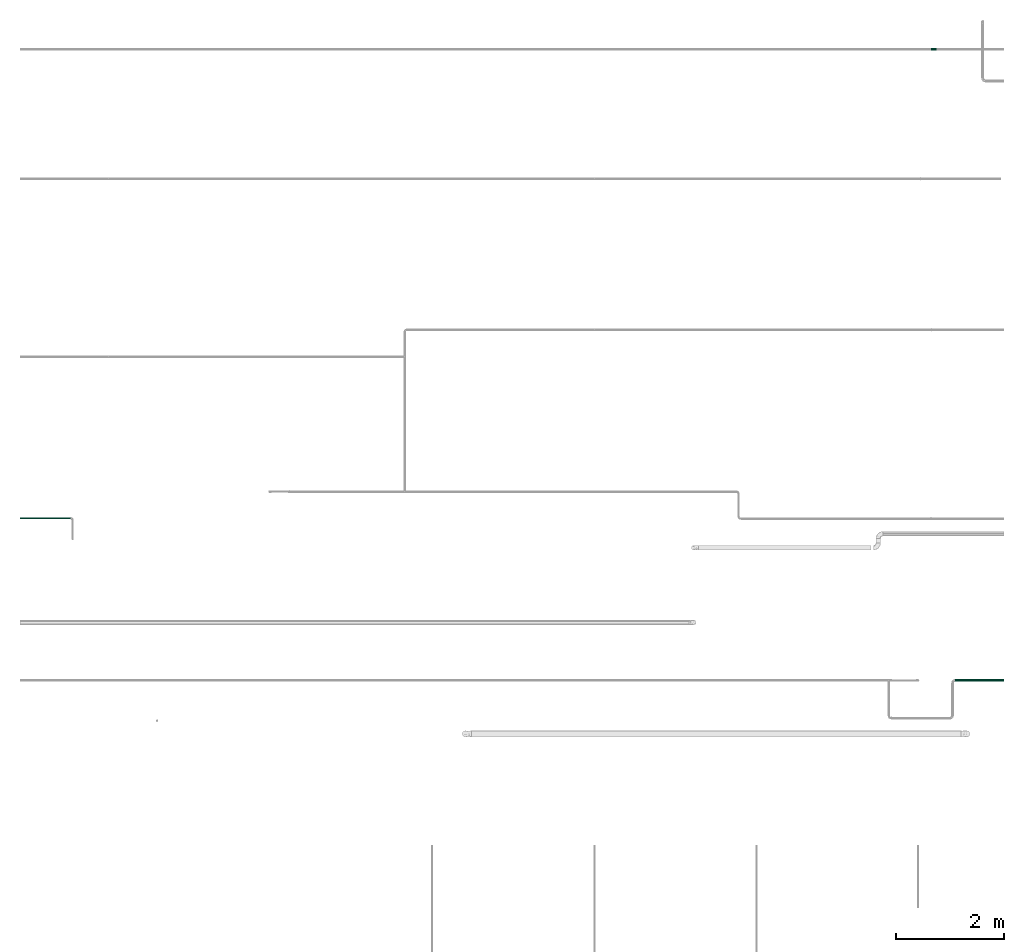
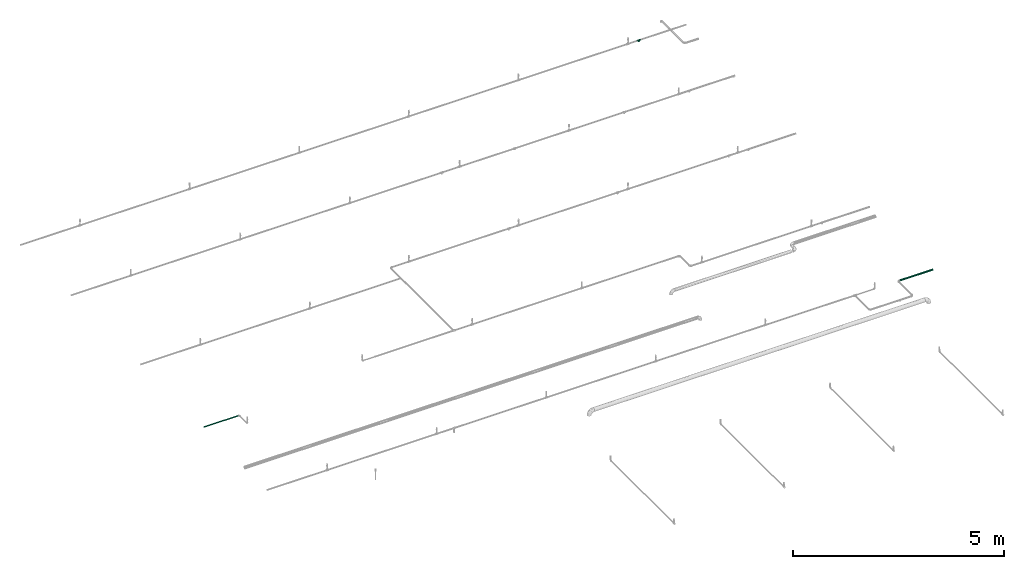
# One storey, part 93 of 94: 2 flow segments, 1 flow fitting.
"""IFC2X3 building model written with IfcOpenShell, lengths in millimetres."""

from ifc_helpers import new_model, entity, si_unit, converted_unit, derived_unit, direction, frame, origin_with_axes, place, context, subcontext, project, spatial, open_shell, faceted_brep, surface_model, source, transform, mapped, type_object, element, save


model = new_model("IFC2X3")

# Units and contexts
model_context = context("Model", 3, precision=0.01, world=frame((0.0, 4.29681676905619e-09, 0.0)), true_north=direction((4.01073788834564e-13, 1.0)))
plan_context = context("Plan", 3, precision=0.01, world=frame((0.0, 4.29681676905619e-09, 0.0)), true_north=direction((4.01073788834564e-13, 1.0)))
body_context = subcontext(model_context, "Body", "Model", "MODEL_VIEW")
ifc_project = project(units=[converted_unit("PLANEANGLEUNIT", "DEGREE", entity("IfcPositiveLengthMeasure", 0.0174532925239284), si_unit("PLANEANGLEUNIT", "RADIAN"), dimensions=[0, 0, 0, 0, 0, 0, 0]), si_unit("AREAUNIT", "SQUARE_METRE"), si_unit("LENGTHUNIT", "METRE", prefix="MILLI"), si_unit("MASSUNIT", "GRAM", prefix="KILO"), si_unit("POWERUNIT", "WATT"), si_unit("PRESSUREUNIT", "PASCAL"), si_unit("FORCEUNIT", "NEWTON", prefix="KILO"), si_unit("ELECTRICCURRENTUNIT", "AMPERE"), si_unit("THERMODYNAMICTEMPERATUREUNIT", "DEGREE_CELSIUS"), si_unit("TIMEUNIT", "SECOND"), si_unit("VOLUMEUNIT", "CUBIC_METRE"), derived_unit("LINEARVELOCITYUNIT", [(si_unit("LENGTHUNIT", "METRE"), 1), (si_unit("TIMEUNIT", "SECOND"), -1)]), derived_unit("VOLUMETRICFLOWRATEUNIT", [(si_unit("VOLUMEUNIT", "CUBIC_METRE"), 1), (si_unit("TIMEUNIT", "SECOND"), -1)]), derived_unit("THERMALTRANSMITTANCEUNIT", [(si_unit("POWERUNIT", "WATT"), 1), (si_unit("THERMODYNAMICTEMPERATUREUNIT", "KELVIN"), -1), (si_unit("AREAUNIT", "SQUARE_METRE"), -1)])], contexts=[model_context, plan_context])

# Site, building, storey
site_placement = place(None, frame((0.0, -4.29681676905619e-09, 0.0), z_axis=(0.0, 0.0, 1.0), x_axis=(1.0, 0.0, 0.0)))
site = spatial("IfcSite", under=ifc_project, at=site_placement, CompositionType="ELEMENT")
building_placement = place(site_placement, frame((0.0, 4.29681676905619e-09, 0.0), z_axis=(0.0, 0.0, 1.0), x_axis=(1.0, 0.0, 0.0)))
building = spatial("IfcBuilding", under=site, at=building_placement, Name="mc-building", CompositionType="ELEMENT")
storey_placement = place(building_placement, frame((0.0, 0.0, 200300.0), z_axis=(0.0, 0.0, 1.0), x_axis=(1.0, 0.0, 0.0)))
storey = spatial("IfcBuildingStorey", under=building, at=storey_placement, Name="Nivå C", CompositionType="ELEMENT", Elevation=200300.0)

# Flow fitting
pipe_fitting_type = type_object("IfcPipeFittingType", Name="magi_pipe_fe_tee_centric_90_NOR", PredefinedType="JUNCTION")
shared_shape = source(origin_with_axes(), body_context, "Body", "SurfaceModel", [
    surface_model("IfcShellBasedSurfaceModel", [(-48.4, 0.0, -21.2), (-48.4, -5.48696, -20.47763), (-48.4, 5.48696, -20.47763), (-48.4, 10.6, -18.35974), (-48.4, 14.99066, -14.99066), (-48.4, -20.47763, 5.48696), (-48.4, 18.35974, -10.6), (-48.4, 10.6, 18.35974), (-48.4, -14.99066, -14.99066), (-48.4, -18.35974, -10.6), (-48.4, -10.6, -18.35974), (-48.4, -20.47763, -5.48696), (-48.4, -21.2, 0.0), (-48.4, 18.35974, 10.6), (-48.4, 20.47763, -5.48696), (-48.4, 20.47763, 5.48696), (-48.4, 21.2, 0.0), (-48.4, 14.99066, 14.99066), (-48.4, 5.48696, 20.47763), (-48.4, 0.0, 21.2), (-48.4, -18.35974, 10.6), (-48.4, -14.99066, 14.99066), (-48.4, -10.6, 18.35974), (-48.4, -5.48696, 20.47763), (48.4, 5.48696, -20.47763), (48.4, -5.48696, -20.47763), (48.4, 0.0, -21.2), (48.4, 14.99066, -14.99066), (48.4, 10.6, -18.35974), (48.4, 18.35974, -10.6), (48.4, 20.47763, -5.48696), (48.4, -21.2, 0.0), (48.4, -10.6, -18.35974), (48.4, -18.35974, -10.6), (48.4, -14.99066, -14.99066), (48.4, -20.47763, -5.48696), (48.4, -20.47763, 5.48696), (48.4, 21.2, 0.0), (48.4, 20.47763, 5.48696), (48.4, 18.35974, 10.6), (48.4, 10.6, 18.35974), (48.4, 14.99066, 14.99066), (48.4, 0.0, 21.2), (48.4, 5.48696, 20.47763), (48.4, -14.99066, 14.99066), (48.4, -18.35974, 10.6), (48.4, -10.6, 18.35974), (48.4, -5.48696, 20.47763), (23.66346, -20.58541, 5.06763), (24.2, -21.2, 0.0), (48.4, -19.41868, 8.04348), (22.92319, -19.72512, 7.37009), (22.18292, -18.86483, 9.67255), (48.4, -12.79533, 16.6752), (17.52885, -13.07902, 16.6847), (20.04053, -16.2918, 13.56529), (48.4, -16.6752, 12.79533), (-22.18292, -18.86483, 9.67255), (-48.4, -19.41868, 8.04348), (-22.92319, -19.72512, 7.37009), (-23.66346, -20.58541, 5.06763), (-24.2, -21.2, 0.0), (-17.52885, -13.07902, 16.6847), (-14.93713, -9.32298, 19.04001), (-20.04053, -16.2918, 13.56529), (-48.4, -16.6752, 12.79533), (-48.4, -12.79533, 16.6752), (14.93713, -9.32298, 19.04001), (12.68846, -4.97966, 20.60687), (11.67048, 0.0, 21.2), (-11.67048, 0.0, 21.2), (-12.68846, -4.97966, 20.60687), (12.68846, -4.97966, -20.60687), (11.67048, 0.0, -21.2), (-20.04053, -16.2918, -13.56529), (-48.4, -16.6752, -12.79533), (17.52885, -13.07902, -16.6847), (48.4, -12.79533, -16.6752), (-11.67048, 0.0, -21.2), (-12.68846, -4.97966, -20.60687), (-22.92319, -19.72512, -7.37009), (-23.66346, -20.58541, -5.06763), (-17.52885, -13.07902, -16.6847), (-48.4, -12.79533, -16.6752), (-14.93713, -9.32298, -19.04001), (14.93713, -9.32298, -19.04001), (48.4, -16.6752, -12.79533), (20.04053, -16.2918, -13.56529), (22.92319, -19.72512, -7.37009), (48.4, -19.41868, -8.04348), (22.18292, -18.86483, -9.67255), (23.66346, -20.58541, -5.06763), (-48.4, -19.41868, -8.04348), (-22.18292, -18.86483, -9.67255), (0.0, -31.8, -24.2), (6.26342, -31.8, -23.37541), (12.1, -31.8, -20.95781), (12.1, -31.8, 20.95781), (17.11198, -31.8, -17.11198), (20.95781, -31.8, -12.1), (23.37541, -31.8, -6.26342), (-12.1, -31.8, -20.95781), (-20.95781, -31.8, -12.1), (-17.11198, -31.8, -17.11198), (-6.26342, -31.8, -23.37541), (-23.37541, -31.8, -6.26342), (-24.2, -31.8, 0.0), (24.2, -31.8, 0.0), (23.37541, -31.8, 6.26342), (20.95781, -31.8, 12.1), (-23.37541, -31.8, 6.26342), (17.11198, -31.8, 17.11198), (6.26342, -31.8, 23.37541), (-17.11198, -31.8, 17.11198), (-20.95781, -31.8, 12.1), (-12.1, -31.8, 20.95781), (0.0, -31.8, 24.2), (-6.26342, -31.8, 23.37541), (-6.02584, 0.0, 23.43777), (-5e-05, 0.0, 24.2), (6.02572, 0.0, 23.4378), (6.02572, 0.0, -23.4378), (-5e-05, 0.0, -24.2), (-6.02584, 0.0, -23.43777)], [open_shell([[[0, 1, 2]], [[3, 2, 4]], [[5, 2, 1]], [[4, 2, 6]], [[6, 2, 7]], [[8, 9, 10]], [[1, 10, 9]], [[9, 11, 1]], [[12, 1, 11]], [[5, 1, 12]], [[13, 14, 6]], [[13, 15, 16]], [[6, 7, 13]], [[5, 7, 2]], [[17, 13, 7]], [[18, 7, 19]], [[20, 21, 5]], [[22, 5, 21]], [[23, 19, 22]], [[7, 5, 22]], [[22, 19, 7]], [[16, 14, 13]], [[24, 25, 26]], [[27, 24, 28]], [[29, 30, 24]], [[29, 24, 27]], [[31, 24, 30]], [[32, 33, 34]], [[33, 32, 25]], [[33, 31, 35]], [[31, 33, 25]], [[25, 24, 31]], [[30, 36, 31]], [[37, 38, 39]], [[37, 39, 40]], [[37, 40, 36]], [[40, 39, 41]], [[42, 40, 43]], [[36, 44, 45]], [[44, 36, 46]], [[46, 42, 47]], [[46, 36, 40]], [[40, 42, 46]], [[37, 36, 30]], [[31, 36, 48]], [[48, 49, 31]], [[36, 50, 51]], [[50, 45, 52]], [[53, 46, 54]], [[44, 55, 56]], [[55, 44, 54]], [[45, 55, 52]], [[55, 45, 56]], [[50, 52, 51]], [[57, 58, 59]], [[60, 12, 61]], [[12, 60, 5]], [[5, 60, 59]], [[5, 59, 58]], [[62, 63, 22]], [[64, 62, 21]], [[64, 65, 20]], [[21, 62, 66]], [[63, 23, 22]], [[64, 20, 57]], [[54, 44, 53]], [[54, 46, 67]], [[68, 42, 69]], [[67, 47, 68]], [[47, 67, 46]], [[68, 47, 42]], [[57, 20, 58]], [[69, 42, 43]], [[39, 38, 15]], [[17, 40, 41]], [[13, 41, 39]], [[43, 40, 7]], [[16, 38, 37]], [[19, 70, 18]], [[64, 21, 65]], [[23, 71, 19]], [[23, 63, 71]], [[19, 71, 70]], [[70, 69, 18]], [[62, 22, 66]], [[43, 18, 69]], [[7, 18, 43]], [[7, 40, 17]], [[13, 17, 41]], [[15, 13, 39]], [[38, 16, 15]], [[36, 51, 48]], [[27, 4, 29]], [[30, 14, 37]], [[30, 29, 6]], [[3, 27, 28]], [[26, 25, 72]], [[26, 73, 24]], [[73, 26, 72]], [[74, 9, 75]], [[28, 24, 2]], [[76, 32, 77]], [[73, 78, 24]], [[14, 30, 6]], [[29, 4, 6]], [[4, 27, 3]], [[37, 14, 16]], [[0, 78, 79]], [[11, 80, 81]], [[82, 8, 83]], [[1, 79, 84]], [[78, 0, 2]], [[0, 79, 1]], [[84, 10, 1]], [[2, 3, 28]], [[78, 2, 24]], [[72, 25, 85]], [[86, 33, 87]], [[34, 76, 77]], [[76, 34, 87]], [[35, 88, 89]], [[32, 76, 85]], [[33, 90, 87]], [[35, 31, 91]], [[90, 89, 88]], [[49, 91, 31]], [[88, 35, 91]], [[82, 10, 84]], [[90, 33, 89]], [[82, 83, 10]], [[8, 82, 74]], [[8, 74, 75]], [[92, 93, 80]], [[87, 34, 86]], [[81, 61, 12]], [[11, 92, 80]], [[93, 92, 9]], [[11, 81, 12]], [[93, 9, 74]], [[32, 85, 25]], [[94, 95, 96]], [[97, 94, 96]], [[98, 99, 100]], [[98, 100, 96]], [[97, 101, 94]], [[101, 102, 103]], [[101, 104, 94]], [[101, 105, 102]], [[105, 101, 106]], [[101, 97, 106]], [[107, 96, 100]], [[107, 108, 109]], [[107, 109, 97]], [[97, 110, 106]], [[97, 109, 111]], [[110, 97, 112]], [[110, 113, 114]], [[110, 112, 113]], [[115, 116, 117]], [[116, 115, 113]], [[112, 116, 113]], [[97, 96, 107]], [[106, 110, 60]], [[60, 61, 106]], [[60, 110, 57]], [[64, 114, 113]], [[113, 115, 63]], [[114, 57, 110]], [[71, 115, 117]], [[64, 57, 114]], [[62, 113, 63]], [[113, 62, 64]], [[71, 118, 70]], [[63, 115, 71]], [[118, 71, 117]], [[119, 118, 116]], [[118, 117, 116]], [[97, 68, 112]], [[112, 120, 116]], [[67, 97, 111]], [[48, 108, 107]], [[111, 109, 55]], [[108, 52, 109]], [[107, 49, 48]], [[68, 120, 112]], [[69, 120, 68]], [[97, 67, 68]], [[48, 52, 108]], [[55, 54, 111]], [[52, 55, 109]], [[111, 54, 67]], [[116, 120, 119]], [[49, 107, 91]], [[99, 90, 100]], [[107, 100, 91]], [[85, 98, 96]], [[72, 96, 95]], [[99, 98, 87]], [[121, 95, 94]], [[90, 91, 100]], [[76, 87, 98]], [[90, 99, 87]], [[85, 96, 72]], [[121, 73, 72]], [[76, 98, 85]], [[121, 72, 95]], [[94, 122, 121]], [[103, 84, 101]], [[101, 79, 104]], [[74, 103, 102]], [[105, 106, 81]], [[61, 81, 106]], [[102, 105, 93]], [[93, 105, 81]], [[104, 79, 123]], [[122, 94, 123]], [[78, 123, 79]], [[93, 74, 102]], [[101, 84, 79]], [[84, 103, 82]], [[103, 74, 82]], [[123, 94, 104]], [[120, 69, 70]], [[118, 119, 70]], [[120, 70, 119]], [[123, 121, 122]], [[78, 73, 123]], [[121, 123, 73]]])]),
])
flow_fitting_placement = place(storey_placement, frame((530794.93912, 418699.60987, 2850.0), z_axis=(0.0, 1.0, 0.0), x_axis=(-1.0, 0.0, 0.0)))
element("IfcFlowFitting", 1, at=flow_fitting_placement, inside=storey, type_object=pipe_fitting_type, Name="magi_pipe_fe_tee_centric_90_NOR", context=body_context, shape_type="MappedRepresentation", body=[
    mapped(shared_shape, transform((0.0, 0.0, 0.0), scale=1.0)),
])

# Flow segments
pipe_segment_type = type_object("IfcPipeSegmentType", Name="Stålrør normaltykke", PredefinedType="RIGIDSEGMENT")
flow_segment_1_placement = place(storey_placement, frame((512955.09215, 410005.75497, 2850.0), z_axis=(0.0, 0.0, 1.0), x_axis=(1.0, 0.0, 0.0)))
element("IfcFlowSegment", 2, at=flow_segment_1_placement, inside=storey, type_object=pipe_segment_type, Name="Stålrør normaltykke", context=body_context, shape_type="Brep", body=[
    faceted_brep([(907.407850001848, 14.6736355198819, -2.58735784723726), (907.407850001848, 14.9, 0.0), (1847.0, 14.9, 0.0), (1847.0, 14.6736355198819, -2.58735784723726), (907.407850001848, 14.00142004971, -5.09610013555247), (1847.0, 14.00142004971, -5.09610013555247), (907.407850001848, 12.9037785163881, -7.45000000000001), (1847.0, 12.9037785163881, -7.45000000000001), (907.407850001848, 11.4140622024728, -9.57753538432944), (1847.0, 11.4140622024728, -9.57753538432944), (907.407850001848, 9.57753538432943, -11.4140622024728), (1847.0, 9.57753538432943, -11.4140622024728), (907.407850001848, 7.45, -12.9037785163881), (1847.0, 7.45, -12.9037785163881), (907.407850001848, 5.09610013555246, -14.00142004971), (1847.0, 5.09610013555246, -14.00142004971), (907.407850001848, 2.58735784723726, -14.6736355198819), (1847.0, 2.58735784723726, -14.6736355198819), (907.407850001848, -2.73708559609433e-15, -14.9), (1847.0, -2.73708559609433e-15, -14.9), (907.407850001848, -2.58735784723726, -14.6736355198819), (1847.0, -2.58735784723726, -14.6736355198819), (907.407850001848, -5.09610013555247, -14.00142004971), (1847.0, -5.09610013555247, -14.00142004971), (907.407850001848, -7.45000000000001, -12.9037785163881), (1847.0, -7.45000000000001, -12.9037785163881), (907.407850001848, -9.57753538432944, -11.4140622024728), (1847.0, -9.57753538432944, -11.4140622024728), (907.407850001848, -11.4140622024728, -9.57753538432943), (1847.0, -11.4140622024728, -9.57753538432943), (907.407850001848, -12.9037785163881, -7.44999999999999), (1847.0, -12.9037785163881, -7.44999999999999), (907.407850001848, -14.00142004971, -5.09610013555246), (1847.0, -14.00142004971, -5.09610013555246), (907.407850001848, -14.6736355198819, -2.58735784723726), (1847.0, -14.6736355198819, -2.58735784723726), (907.407850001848, -14.9, 1.82472373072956e-15), (1847.0, -14.9, 1.82472373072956e-15), (907.407850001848, -14.6736355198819, 2.58735784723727), (1847.0, -14.6736355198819, 2.58735784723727), (907.407850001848, -14.00142004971, 5.09610013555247), (1847.0, -14.00142004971, 5.09610013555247), (907.407850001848, -12.9037785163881, 7.45), (1847.0, -12.9037785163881, 7.45), (907.407850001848, -11.4140622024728, 9.57753538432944), (1847.0, -11.4140622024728, 9.57753538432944), (907.407850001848, -9.57753538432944, 11.4140622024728), (1847.0, -9.57753538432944, 11.4140622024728), (907.407850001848, -7.45, 12.9037785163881), (1847.0, -7.45, 12.9037785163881), (907.407850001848, -5.09610013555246, 14.00142004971), (1847.0, -5.09610013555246, 14.00142004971), (907.407850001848, -2.58735784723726, 14.6736355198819), (1847.0, -2.58735784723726, 14.6736355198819), (907.407850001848, 9.12361865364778e-16, 14.9), (1847.0, 9.12361865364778e-16, 14.9), (907.407850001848, 2.58735784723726, 14.6736355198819), (1847.0, 2.58735784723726, 14.6736355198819), (907.407850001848, 5.09610013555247, 14.00142004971), (1847.0, 5.09610013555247, 14.00142004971), (907.407850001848, 7.45, 12.9037785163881), (1847.0, 7.45, 12.9037785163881), (907.407850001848, 9.57753538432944, 11.4140622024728), (1847.0, 9.57753538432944, 11.4140622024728), (907.407850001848, 11.4140622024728, 9.57753538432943), (1847.0, 11.4140622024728, 9.57753538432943), (907.407850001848, 12.9037785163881, 7.45), (1847.0, 12.9037785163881, 7.45), (907.407850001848, 14.00142004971, 5.09610013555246), (1847.0, 14.00142004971, 5.09610013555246), (907.407850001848, 14.6736355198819, 2.58735784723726), (1847.0, 14.6736355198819, 2.58735784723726), (907.407850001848, 16.9, 0.0), (907.407850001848, 16.6432510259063, -2.93465420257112), (1847.0, 16.6432510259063, -2.93465420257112), (1847.0, 16.9, 0.0), (907.407850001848, 16.6432510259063, 2.93465420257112), (1847.0, 16.6432510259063, 2.93465420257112), (907.407850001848, 15.8808052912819, 5.7801404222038), (1847.0, 15.8808052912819, 5.7801404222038), (907.407850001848, 14.635829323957, 8.45), (1847.0, 14.635829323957, 8.45), (907.407850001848, 12.9461510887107, 10.8631106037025), (1847.0, 12.9461510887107, 10.8631106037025), (907.407850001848, 10.8631106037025, 12.9461510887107), (1847.0, 10.8631106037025, 12.9461510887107), (907.407850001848, 8.45, 14.635829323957), (1847.0, 8.45, 14.635829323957), (907.407850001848, 5.7801404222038, 15.8808052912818), (1847.0, 5.7801404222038, 15.8808052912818), (907.407850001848, 2.93465420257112, 16.6432510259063), (1847.0, 2.93465420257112, 16.6432510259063), (907.407850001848, 1.03482654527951e-15, 16.9), (1847.0, 1.03482654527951e-15, 16.9), (907.407850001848, -2.93465420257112, 16.6432510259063), (1847.0, -2.93465420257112, 16.6432510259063), (907.407850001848, -5.7801404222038, 15.8808052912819), (1847.0, -5.7801404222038, 15.8808052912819), (907.407850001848, -8.45, 14.635829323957), (1847.0, -8.45, 14.635829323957), (907.407850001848, -10.8631106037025, 12.9461510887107), (1847.0, -10.8631106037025, 12.9461510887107), (907.407850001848, -12.9461510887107, 10.8631106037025), (1847.0, -12.9461510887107, 10.8631106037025), (907.407850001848, -14.635829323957, 8.45), (1847.0, -14.635829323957, 8.45), (907.407850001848, -15.8808052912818, 5.7801404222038), (1847.0, -15.8808052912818, 5.7801404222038), (907.407850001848, -16.6432510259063, 2.93465420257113), (1847.0, -16.6432510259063, 2.93465420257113), (907.407850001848, -16.9, 2.06965309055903e-15), (1847.0, -16.9, 2.06965309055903e-15), (907.407850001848, -16.6432510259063, -2.93465420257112), (1847.0, -16.6432510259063, -2.93465420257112), (907.407850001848, -15.8808052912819, -5.7801404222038), (1847.0, -15.8808052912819, -5.7801404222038), (907.407850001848, -14.635829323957, -8.44999999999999), (1847.0, -14.635829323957, -8.44999999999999), (907.407850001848, -12.9461510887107, -10.8631106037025), (1847.0, -12.9461510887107, -10.8631106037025), (907.407850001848, -10.8631106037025, -12.9461510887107), (1847.0, -10.8631106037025, -12.9461510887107), (907.407850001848, -8.45000000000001, -14.635829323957), (1847.0, -8.45000000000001, -14.635829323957), (907.407850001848, -5.78014042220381, -15.8808052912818), (1847.0, -5.78014042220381, -15.8808052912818), (907.407850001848, -2.93465420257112, -16.6432510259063), (1847.0, -2.93465420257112, -16.6432510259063), (907.407850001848, -3.10447963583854e-15, -16.9), (1847.0, -3.10447963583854e-15, -16.9), (907.407850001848, 2.93465420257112, -16.6432510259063), (1847.0, 2.93465420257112, -16.6432510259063), (907.407850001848, 5.78014042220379, -15.8808052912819), (1847.0, 5.78014042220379, -15.8808052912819), (907.407850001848, 8.45, -14.635829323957), (1847.0, 8.45, -14.635829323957), (907.407850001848, 10.8631106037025, -12.9461510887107), (1847.0, 10.8631106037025, -12.9461510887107), (907.407850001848, 12.9461510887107, -10.8631106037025), (1847.0, 12.9461510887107, -10.8631106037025), (907.407850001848, 14.635829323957, -8.45000000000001), (1847.0, 14.635829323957, -8.45000000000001), (907.407850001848, 15.8808052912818, -5.78014042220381), (1847.0, 15.8808052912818, -5.78014042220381)], [[[0, 1, 2, 3]], [[4, 0, 3, 5]], [[6, 4, 5, 7]], [[8, 6, 7, 9]], [[10, 8, 9, 11]], [[12, 10, 11, 13]], [[14, 12, 13, 15]], [[16, 14, 15, 17]], [[18, 16, 17, 19]], [[20, 18, 19, 21]], [[22, 20, 21, 23]], [[24, 22, 23, 25]], [[26, 24, 25, 27]], [[28, 26, 27, 29]], [[30, 28, 29, 31]], [[32, 30, 31, 33]], [[34, 32, 33, 35]], [[36, 34, 35, 37]], [[38, 36, 37, 39]], [[40, 38, 39, 41]], [[42, 40, 41, 43]], [[44, 42, 43, 45]], [[46, 44, 45, 47]], [[48, 46, 47, 49]], [[50, 48, 49, 51]], [[52, 50, 51, 53]], [[54, 52, 53, 55]], [[56, 54, 55, 57]], [[58, 56, 57, 59]], [[60, 58, 59, 61]], [[62, 60, 61, 63]], [[64, 62, 63, 65]], [[66, 64, 65, 67]], [[68, 66, 67, 69]], [[70, 68, 69, 71]], [[1, 70, 71, 2]], [[72, 73, 74, 75]], [[76, 72, 75, 77]], [[78, 76, 77, 79]], [[80, 78, 79, 81]], [[82, 80, 81, 83]], [[84, 82, 83, 85]], [[86, 84, 85, 87]], [[88, 86, 87, 89]], [[90, 88, 89, 91]], [[92, 90, 91, 93]], [[94, 92, 93, 95]], [[96, 94, 95, 97]], [[98, 96, 97, 99]], [[100, 98, 99, 101]], [[102, 100, 101, 103]], [[104, 102, 103, 105]], [[106, 104, 105, 107]], [[108, 106, 107, 109]], [[110, 108, 109, 111]], [[112, 110, 111, 113]], [[114, 112, 113, 115]], [[116, 114, 115, 117]], [[118, 116, 117, 119]], [[120, 118, 119, 121]], [[122, 120, 121, 123]], [[124, 122, 123, 125]], [[126, 124, 125, 127]], [[128, 126, 127, 129]], [[130, 128, 129, 131]], [[132, 130, 131, 133]], [[134, 132, 133, 135]], [[136, 134, 135, 137]], [[138, 136, 137, 139]], [[140, 138, 139, 141]], [[142, 140, 141, 143]], [[73, 142, 143, 74]], [[75, 74, 143, 141, 139, 137, 135, 133, 131, 129, 127, 125, 123, 121, 119, 117, 115, 113, 111, 109, 107, 105, 103, 101, 99, 97, 95, 93, 91, 89, 87, 85, 83, 81, 79, 77], [2, 71, 69, 67, 65, 63, 61, 59, 57, 55, 53, 51, 49, 47, 45, 43, 41, 39, 37, 35, 33, 31, 29, 27, 25, 23, 21, 19, 17, 15, 13, 11, 9, 7, 5, 3]], [[76, 78, 80, 82, 84, 86, 88, 90, 92, 94, 96, 98, 100, 102, 104, 106, 108, 110, 112, 114, 116, 118, 120, 122, 124, 126, 128, 130, 132, 134, 136, 138, 140, 142, 73, 72], [4, 6, 8, 10, 12, 14, 16, 18, 20, 22, 24, 26, 28, 30, 32, 34, 36, 38, 40, 42, 44, 46, 48, 50, 52, 54, 56, 58, 60, 62, 64, 66, 68, 70, 1, 0]]], orient=[[False], [False], [False], [False], [False], [False], [False], [False], [False], [False], [False], [False], [False], [False], [False], [False], [False], [False], [False], [False], [False], [False], [False], [False], [False], [False], [False], [False], [False], [False], [False], [False], [False], [False], [False], [False], [False], [False], [False], [False], [False], [False], [False], [False], [False], [False], [False], [False], [False], [False], [False], [False], [False], [False], [False], [False], [False], [False], [False], [False], [False], [False], [False], [False], [False], [False], [False], [False], [False], [False], [False], [False], [False, False], [False, False]]),
])
flow_segment_2_placement = place(storey_placement, frame((531189.58385, 407003.74497, 2850.0), z_axis=(0.0, 0.0, 1.0), x_axis=(1.0, 0.0, 0.0)))
element("IfcFlowSegment", 3, at=flow_segment_2_placement, inside=storey, type_object=pipe_segment_type, Name="Stålrør normaltykke", context=body_context, shape_type="Brep", body=[
    faceted_brep([(905.416150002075, 22.1, 0.0), (905.416150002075, 21.7642513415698, -3.83762472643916), (0.0, 21.7642513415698, -3.83762472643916), (0.0, 22.1, 0.0), (905.416150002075, 20.7672069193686, -7.5586451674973), (0.0, 20.7672069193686, -7.5586451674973), (905.416150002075, 19.1391614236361, -11.05), (0.0, 19.1391614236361, -11.05), (905.416150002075, 16.9295821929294, -14.2056061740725), (0.0, 16.9295821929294, -14.2056061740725), (905.416150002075, 14.2056061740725, -16.9295821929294), (0.0, 14.2056061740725, -16.9295821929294), (905.416150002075, 11.05, -19.1391614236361), (0.0, 11.05, -19.1391614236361), (905.416150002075, 7.55864516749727, -20.7672069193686), (0.0, 7.55864516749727, -20.7672069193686), (905.416150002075, 3.83762472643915, -21.7642513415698), (0.0, 3.83762472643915, -21.7642513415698), (905.416150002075, -4.05970413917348e-15, -22.1), (0.0, -4.05970413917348e-15, -22.1), (905.416150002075, -3.83762472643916, -21.7642513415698), (0.0, -3.83762472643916, -21.7642513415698), (905.416150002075, -7.55864516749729, -20.7672069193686), (0.0, -7.55864516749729, -20.7672069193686), (905.416150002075, -11.05, -19.1391614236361), (0.0, -11.05, -19.1391614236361), (905.416150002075, -14.2056061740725, -16.9295821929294), (0.0, -14.2056061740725, -16.9295821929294), (905.416150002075, -16.9295821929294, -14.2056061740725), (0.0, -16.9295821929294, -14.2056061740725), (905.416150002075, -19.1391614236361, -11.05), (0.0, -19.1391614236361, -11.05), (905.416150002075, -20.7672069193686, -7.55864516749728), (0.0, -20.7672069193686, -7.55864516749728), (905.416150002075, -21.7642513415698, -3.83762472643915), (0.0, -21.7642513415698, -3.83762472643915), (905.416150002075, -22.1, 2.70646942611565e-15), (0.0, -22.1, 2.70646942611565e-15), (905.416150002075, -21.7642513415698, 3.83762472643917), (0.0, -21.7642513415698, 3.83762472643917), (905.416150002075, -20.7672069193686, 7.55864516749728), (0.0, -20.7672069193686, 7.55864516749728), (905.416150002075, -19.1391614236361, 11.05), (0.0, -19.1391614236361, 11.05), (905.416150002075, -16.9295821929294, 14.2056061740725), (0.0, -16.9295821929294, 14.2056061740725), (905.416150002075, -14.2056061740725, 16.9295821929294), (0.0, -14.2056061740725, 16.9295821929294), (905.416150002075, -11.05, 19.1391614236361), (0.0, -11.05, 19.1391614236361), (905.416150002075, -7.55864516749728, 20.7672069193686), (0.0, -7.55864516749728, 20.7672069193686), (905.416150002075, -3.83762472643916, 21.7642513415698), (0.0, -3.83762472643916, 21.7642513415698), (905.416150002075, 1.35323471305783e-15, 22.1), (0.0, 1.35323471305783e-15, 22.1), (905.416150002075, 3.83762472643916, 21.7642513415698), (0.0, 3.83762472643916, 21.7642513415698), (905.416150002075, 7.55864516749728, 20.7672069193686), (0.0, 7.55864516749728, 20.7672069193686), (905.416150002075, 11.05, 19.1391614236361), (0.0, 11.05, 19.1391614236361), (905.416150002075, 14.2056061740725, 16.9295821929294), (0.0, 14.2056061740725, 16.9295821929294), (905.416150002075, 16.9295821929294, 14.2056061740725), (0.0, 16.9295821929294, 14.2056061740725), (905.416150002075, 19.1391614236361, 11.05), (0.0, 19.1391614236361, 11.05), (905.416150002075, 20.7672069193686, 7.55864516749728), (0.0, 20.7672069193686, 7.55864516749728), (905.416150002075, 21.7642513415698, 3.83762472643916), (0.0, 21.7642513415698, 3.83762472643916), (905.416150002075, 23.7338668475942, -4.18492108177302), (905.416150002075, 24.1, 0.0), (0.0, 24.1, 0.0), (0.0, 23.7338668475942, -4.18492108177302), (905.416150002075, 23.7338668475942, 4.18492108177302), (0.0, 23.7338668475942, 4.18492108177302), (905.416150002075, 22.6465921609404, 8.24268545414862), (0.0, 22.6465921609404, 8.24268545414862), (905.416150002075, 20.871212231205, 12.05), (0.0, 20.871212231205, 12.05), (905.416150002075, 18.4616710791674, 15.4911813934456), (0.0, 18.4616710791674, 15.4911813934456), (905.416150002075, 15.4911813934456, 18.4616710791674), (0.0, 15.4911813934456, 18.4616710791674), (905.416150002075, 12.05, 20.871212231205), (0.0, 12.05, 20.871212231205), (905.416150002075, 8.24268545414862, 22.6465921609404), (0.0, 8.24268545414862, 22.6465921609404), (905.416150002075, 4.18492108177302, 23.7338668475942), (0.0, 4.18492108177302, 23.7338668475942), (905.416150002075, 1.47569939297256e-15, 24.1), (0.0, 1.47569939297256e-15, 24.1), (905.416150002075, -4.18492108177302, 23.7338668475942), (0.0, -4.18492108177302, 23.7338668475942), (905.416150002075, -8.24268545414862, 22.6465921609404), (0.0, -8.24268545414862, 22.6465921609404), (905.416150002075, -12.05, 20.871212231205), (0.0, -12.05, 20.871212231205), (905.416150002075, -15.4911813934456, 18.4616710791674), (0.0, -15.4911813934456, 18.4616710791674), (905.416150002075, -18.4616710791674, 15.4911813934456), (0.0, -18.4616710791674, 15.4911813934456), (905.416150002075, -20.871212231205, 12.05), (0.0, -20.871212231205, 12.05), (905.416150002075, -22.6465921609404, 8.24268545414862), (0.0, -22.6465921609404, 8.24268545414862), (905.416150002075, -23.7338668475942, 4.18492108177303), (0.0, -23.7338668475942, 4.18492108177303), (905.416150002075, -24.1, 2.95139878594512e-15), (0.0, -24.1, 2.95139878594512e-15), (905.416150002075, -23.7338668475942, -4.18492108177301), (0.0, -23.7338668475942, -4.18492108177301), (905.416150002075, -22.6465921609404, -8.24268545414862), (0.0, -22.6465921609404, -8.24268545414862), (905.416150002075, -20.871212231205, -12.05), (0.0, -20.871212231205, -12.05), (905.416150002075, -18.4616710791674, -15.4911813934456), (0.0, -18.4616710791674, -15.4911813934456), (905.416150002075, -15.4911813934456, -18.4616710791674), (0.0, -15.4911813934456, -18.4616710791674), (905.416150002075, -12.05, -20.871212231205), (0.0, -12.05, -20.871212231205), (905.416150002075, -8.24268545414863, -22.6465921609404), (0.0, -8.24268545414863, -22.6465921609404), (905.416150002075, -4.18492108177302, -23.7338668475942), (0.0, -4.18492108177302, -23.7338668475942), (905.416150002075, -4.42709817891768e-15, -24.1), (0.0, -4.42709817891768e-15, -24.1), (905.416150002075, 4.18492108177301, -23.7338668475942), (0.0, 4.18492108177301, -23.7338668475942), (905.416150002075, 8.2426854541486, -22.6465921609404), (0.0, 8.2426854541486, -22.6465921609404), (905.416150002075, 12.05, -20.871212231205), (0.0, 12.05, -20.871212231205), (905.416150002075, 15.4911813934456, -18.4616710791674), (0.0, 15.4911813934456, -18.4616710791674), (905.416150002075, 18.4616710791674, -15.4911813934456), (0.0, 18.4616710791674, -15.4911813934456), (905.416150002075, 20.871212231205, -12.05), (0.0, 20.871212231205, -12.05), (905.416150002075, 22.6465921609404, -8.24268545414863), (0.0, 22.6465921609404, -8.24268545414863)], [[[0, 1, 2, 3]], [[1, 4, 5, 2]], [[4, 6, 7, 5]], [[6, 8, 9, 7]], [[8, 10, 11, 9]], [[10, 12, 13, 11]], [[12, 14, 15, 13]], [[14, 16, 17, 15]], [[16, 18, 19, 17]], [[18, 20, 21, 19]], [[20, 22, 23, 21]], [[22, 24, 25, 23]], [[24, 26, 27, 25]], [[26, 28, 29, 27]], [[28, 30, 31, 29]], [[30, 32, 33, 31]], [[32, 34, 35, 33]], [[34, 36, 37, 35]], [[36, 38, 39, 37]], [[38, 40, 41, 39]], [[40, 42, 43, 41]], [[42, 44, 45, 43]], [[44, 46, 47, 45]], [[46, 48, 49, 47]], [[48, 50, 51, 49]], [[50, 52, 53, 51]], [[52, 54, 55, 53]], [[54, 56, 57, 55]], [[56, 58, 59, 57]], [[58, 60, 61, 59]], [[60, 62, 63, 61]], [[62, 64, 65, 63]], [[64, 66, 67, 65]], [[66, 68, 69, 67]], [[68, 70, 71, 69]], [[70, 0, 3, 71]], [[72, 73, 74, 75]], [[73, 76, 77, 74]], [[76, 78, 79, 77]], [[78, 80, 81, 79]], [[80, 82, 83, 81]], [[82, 84, 85, 83]], [[84, 86, 87, 85]], [[86, 88, 89, 87]], [[88, 90, 91, 89]], [[90, 92, 93, 91]], [[92, 94, 95, 93]], [[94, 96, 97, 95]], [[96, 98, 99, 97]], [[98, 100, 101, 99]], [[100, 102, 103, 101]], [[102, 104, 105, 103]], [[104, 106, 107, 105]], [[106, 108, 109, 107]], [[108, 110, 111, 109]], [[110, 112, 113, 111]], [[112, 114, 115, 113]], [[114, 116, 117, 115]], [[116, 118, 119, 117]], [[118, 120, 121, 119]], [[120, 122, 123, 121]], [[122, 124, 125, 123]], [[124, 126, 127, 125]], [[126, 128, 129, 127]], [[128, 130, 131, 129]], [[130, 132, 133, 131]], [[132, 134, 135, 133]], [[134, 136, 137, 135]], [[136, 138, 139, 137]], [[138, 140, 141, 139]], [[140, 142, 143, 141]], [[142, 72, 75, 143]], [[75, 74, 77, 79, 81, 83, 85, 87, 89, 91, 93, 95, 97, 99, 101, 103, 105, 107, 109, 111, 113, 115, 117, 119, 121, 123, 125, 127, 129, 131, 133, 135, 137, 139, 141, 143], [3, 2, 5, 7, 9, 11, 13, 15, 17, 19, 21, 23, 25, 27, 29, 31, 33, 35, 37, 39, 41, 43, 45, 47, 49, 51, 53, 55, 57, 59, 61, 63, 65, 67, 69, 71]], [[142, 140, 138, 136, 134, 132, 130, 128, 126, 124, 122, 120, 118, 116, 114, 112, 110, 108, 106, 104, 102, 100, 98, 96, 94, 92, 90, 88, 86, 84, 82, 80, 78, 76, 73, 72], [70, 68, 66, 64, 62, 60, 58, 56, 54, 52, 50, 48, 46, 44, 42, 40, 38, 36, 34, 32, 30, 28, 26, 24, 22, 20, 18, 16, 14, 12, 10, 8, 6, 4, 1, 0]]], orient=[[False], [False], [False], [False], [False], [False], [False], [False], [False], [False], [False], [False], [False], [False], [False], [False], [False], [False], [False], [False], [False], [False], [False], [False], [False], [False], [False], [False], [False], [False], [False], [False], [False], [False], [False], [False], [False], [False], [False], [False], [False], [False], [False], [False], [False], [False], [False], [False], [False], [False], [False], [False], [False], [False], [False], [False], [False], [False], [False], [False], [False], [False], [False], [False], [False], [False], [False], [False], [False], [False], [False], [False], [False, False], [False, False]]),
])

save(model, "model.ifc")
